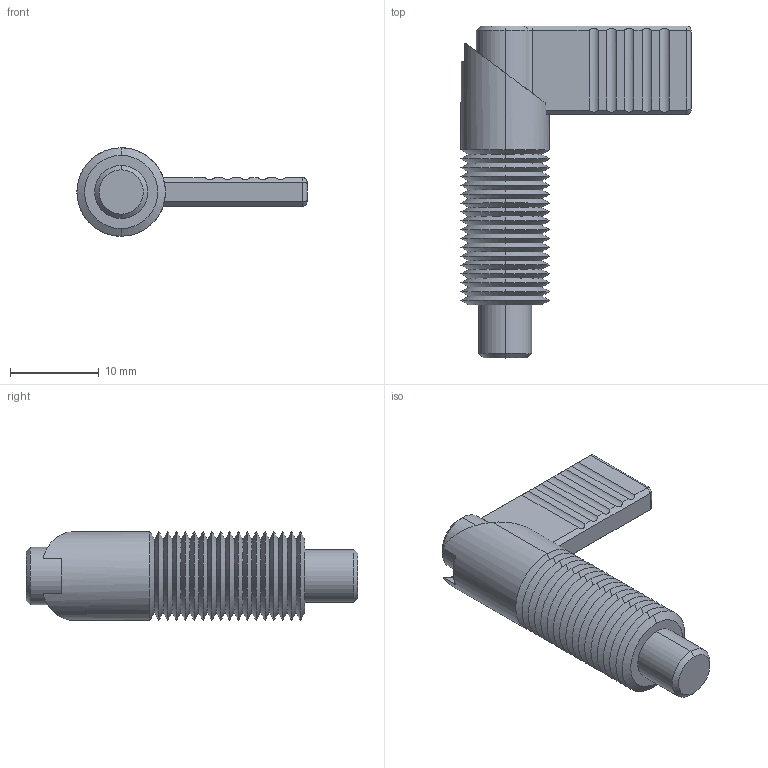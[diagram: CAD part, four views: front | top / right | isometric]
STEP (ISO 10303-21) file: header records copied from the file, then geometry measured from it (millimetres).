
FILE_DESCRIPTION (( 'STEP AP203' ), '1' );
FILE_NAME ('32501.W0312.step', '2016-02-10T17:19:45', ( 'User' ), ( '' ), 'SwSTEP 2.0', 'SolidWorks 2009', '' );
FILE_SCHEMA (( 'CONFIG_CONTROL_DESIGN' ));
Length unit declared in the file: millimetre
Products named in the file (3): Part2_32501.W0312; Part1_32501.W0312; 32501.W0312
Assembly tree (2 placements, depth 2):
  32501.W0312
    Part1_32501.W0312
    Part2_32501.W0312
Bounding box: 26 x 37.5 x 10 mm (x, y, z)
Volume: 2241.7 mm3; surface area: 3139.7 mm2
Topology: 2 solids, 2 shells, 151 faces, 336 edges, 192 vertices
Faces by surface type: cone 84, cylinder 40, plane 27
Entity records: 4449 total; most frequent: CARTESIAN_POINT 852, DIRECTION 726, ORIENTED_EDGE 672, EDGE_CURVE 336, AXIS2_PLACEMENT_3D 276, VERTEX_POINT 192, VECTOR 174, LINE 174
